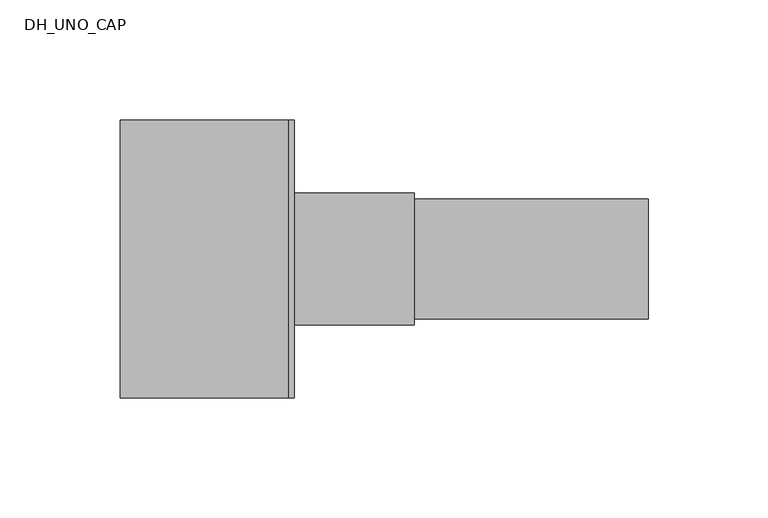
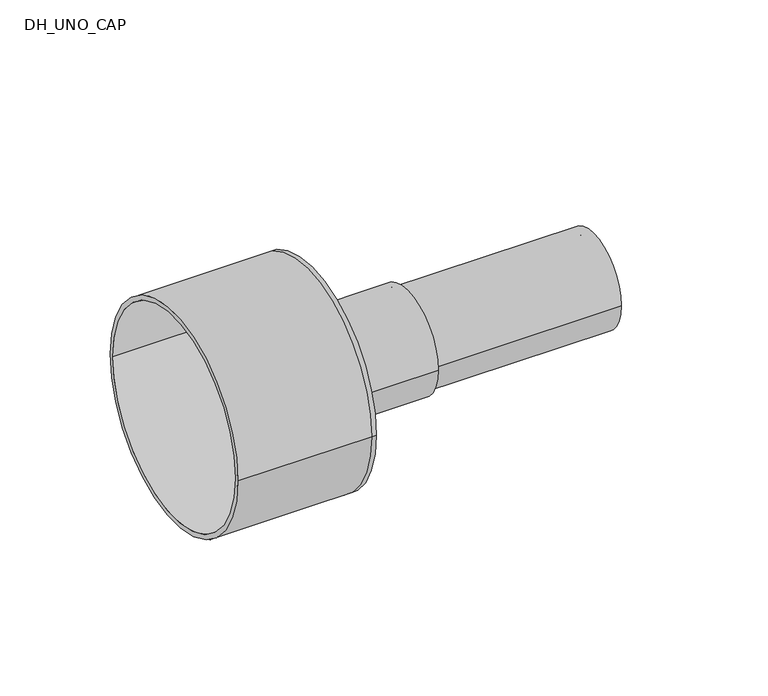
"""IFC4 building model written with IfcOpenShell, lengths in millimetres: pipe fitting geometry, DH_UNO_CAP : RAUTHERMEX UNO 11 Heating - Rubber Cap."""

import ifcopenshell
import ifcopenshell.guid

model = None  # the IFC model being written
_history = None  # IfcOwnerHistory: only IFC2X3 demands one
_inside = {}  # id of a spatial element -> (the spatial element, [elements in it])
_under = {}  # id of a project, library or spatial element -> (it, [spatial elements below it])
_declared = {}  # id of a project -> (the project, [libraries it declares])
_typed = {}  # id of a type object -> (the type object, [elements of that type])
_made_of = {}  # id of a material, layer set ... -> (it, [elements and type objects made of it])


def new_model(schema):
    """Start an empty IFC model of exactly this schema.

    Asked for "IFC4X3", IfcOpenShell would pick the latest addendum, in which some entities
    have other attributes; the version numbers below select the first issue.
    IFC2X3 requires an IfcOwnerHistory on every rooted entity: one is made here for all.
    """
    global model, _history
    if schema == "IFC4X3":
        model = ifcopenshell.file(schema_version=(4, 3, 0, 0))
    else:
        model = ifcopenshell.file(schema=schema)
    _inside.clear()
    _under.clear()
    _declared.clear()
    _typed.clear()
    _made_of.clear()
    _history = None
    if model.schema == "IFC2X3":
        org = make("IfcOrganization", Name="unknown")
        user = make(
            "IfcPersonAndOrganization",
            ThePerson=make("IfcPerson", FamilyName="unknown"),
            TheOrganization=org,
        )
        app = make(
            "IfcApplication",
            ApplicationDeveloper=org,
            Version="unknown",
            ApplicationFullName="unknown",
            ApplicationIdentifier="unknown",
        )
        _history = make(
            "IfcOwnerHistory",
            OwningUser=user,
            OwningApplication=app,
            ChangeAction="ADDED",
            CreationDate=0,
        )
    return model


def make(cls, **values):
    """One entity of the class cls with the attributes given. An attribute that is None is left unset."""
    return model.create_entity(
        cls, **{name: value for name, value in values.items() if value is not None}
    )


def rooted(cls, **values):
    """An entity with a GlobalId (a new one), such as an element, a storey or a relation."""
    return make(cls, GlobalId=ifcopenshell.guid.new(), OwnerHistory=_history, **values)


def si_unit(unit_type, name, prefix=None):
    """IfcSIUnit, for example si_unit("LENGTHUNIT", "METRE", prefix="MILLI")."""
    return make("IfcSIUnit", UnitType=unit_type, Prefix=prefix, Name=name)


def assignment(units):
    """IfcUnitAssignment: the units of a project."""
    return None if units is None else make("IfcUnitAssignment", Units=units)


def point(xyz):
    """IfcCartesianPoint."""
    return None if xyz is None else make("IfcCartesianPoint", Coordinates=xyz)


def direction(xyz):
    """IfcDirection."""
    return None if xyz is None else make("IfcDirection", DirectionRatios=xyz)


def frame(location, z_axis=None, x_axis=None):
    """IfcAxis2Placement3D, a coordinate frame: its origin and axes. An axis left out is left unset."""
    return make(
        "IfcAxis2Placement3D",
        Location=point(location),
        Axis=direction(z_axis),
        RefDirection=direction(x_axis),
    )


def frame_2d(location, x_axis=None):
    """IfcAxis2Placement2D, a coordinate frame in the plane: its origin and x axis."""
    return make(
        "IfcAxis2Placement2D", Location=point(location), RefDirection=direction(x_axis)
    )


def origin():
    """The frame at (0, 0, 0) with its axes left unset."""
    return frame((0.0, 0.0, 0.0))


def origin_2d():
    """The frame at (0, 0) in the plane with its x axis left unset."""
    return frame_2d((0.0, 0.0))


def place(relative_to, where):
    """IfcLocalPlacement: puts the frame where relative to a parent placement (None: the world)."""
    return make(
        "IfcLocalPlacement", PlacementRelTo=relative_to, RelativePlacement=where
    )


def context(
    kind, dimensions, precision=None, world=None, true_north=None, identifier=None
):
    """IfcGeometricRepresentationContext, for example the 3D "Model" context."""
    return make(
        "IfcGeometricRepresentationContext",
        ContextIdentifier=identifier,
        ContextType=kind,
        CoordinateSpaceDimension=dimensions,
        Precision=precision,
        WorldCoordinateSystem=world,
        TrueNorth=true_north,
    )


def project(units=None, contexts=None):
    """IfcProject with its units and contexts."""
    return rooted(
        "IfcProject",
        Name="project",
        RepresentationContexts=contexts,
        UnitsInContext=assignment(units),
    )


def spatial(cls, under=None, at=None, **own):
    """A site, building, storey or space (cls), placed at a placement, below another one or the project."""
    s = rooted(cls, ObjectPlacement=at, **own)
    if under is not None:
        _under.setdefault(under.id(), (under, []))[1].append(s)
    return s


def polyline(points):
    """IfcPolyline through the points."""
    return make("IfcPolyline", Points=[point(p) for p in points])


def circle_curve(where, radius):
    """IfcCircle in the frame where."""
    return make("IfcCircle", Position=where, Radius=radius)


def trimmed(basis, trim1, trim2, sense, master):
    """IfcTrimmedCurve: the piece of a basis curve between two trims."""
    return make(
        "IfcTrimmedCurve",
        BasisCurve=basis,
        Trim1=trim1,
        Trim2=trim2,
        SenseAgreement=sense,
        MasterRepresentation=master,
    )


def segment(curve, same_sense, transition):
    """IfcCompositeCurveSegment."""
    return make(
        "IfcCompositeCurveSegment",
        Transition=transition,
        SameSense=same_sense,
        ParentCurve=curve,
    )


def composite_curve(segments, self_intersect=None):
    """IfcCompositeCurve: segments joined end to end."""
    return make("IfcCompositeCurve", Segments=segments, SelfIntersect=self_intersect)


def outline(outer, holes=None, kind="AREA"):
    """IfcArbitraryClosedProfileDef: a profile drawn as a closed curve; with holes, ...WithVoids."""
    if holes is None:
        return make("IfcArbitraryClosedProfileDef", ProfileType=kind, OuterCurve=outer)
    return make(
        "IfcArbitraryProfileDefWithVoids",
        ProfileType=kind,
        OuterCurve=outer,
        InnerCurves=holes,
    )


def extrude(swept, where, along, depth):
    """IfcExtrudedAreaSolid: the profile swept, set in the frame where, extruded along a direction by depth."""
    return make(
        "IfcExtrudedAreaSolid",
        SweptArea=swept,
        Position=where,
        ExtrudedDirection=direction(along),
        Depth=depth,
    )


def shape(context_of_items, identifier, shape_type, items):
    """IfcShapeRepresentation: the items that make up one representation, for example the "Body"."""
    return make(
        "IfcShapeRepresentation",
        ContextOfItems=context_of_items,
        RepresentationIdentifier=identifier,
        RepresentationType=shape_type,
        Items=items,
    )


def source(mapping_origin, context_of_items, identifier, shape_type, items):
    """IfcRepresentationMap: a shape defined once, which mapped items show again and again."""
    return make(
        "IfcRepresentationMap",
        MappingOrigin=mapping_origin,
        MappedRepresentation=shape(context_of_items, identifier, shape_type, items),
    )


def transform(
    local_origin,
    x_axis=None,
    y_axis=None,
    z_axis=None,
    scale=None,
    scale2=None,
    scale3=None,
    uniform=True,
):
    """IfcCartesianTransformationOperator3D, or its non-uniform kind. x_axis, y_axis, z_axis: its Axis1, 2, 3."""
    if uniform:
        return make(
            "IfcCartesianTransformationOperator3D",
            Axis1=direction(x_axis),
            Axis2=direction(y_axis),
            LocalOrigin=point(local_origin),
            Scale=scale,
            Axis3=direction(z_axis),
        )
    return make(
        "IfcCartesianTransformationOperator3DnonUniform",
        Axis1=direction(x_axis),
        Axis2=direction(y_axis),
        LocalOrigin=point(local_origin),
        Scale=scale,
        Axis3=direction(z_axis),
        Scale2=scale2,
        Scale3=scale3,
    )


def mapped(mapping_source, mapping_target):
    """IfcMappedItem: shows the shape of a source again, moved by a transform."""
    return make(
        "IfcMappedItem", MappingSource=mapping_source, MappingTarget=mapping_target
    )


def made_of(thing, what):
    """Note that an element or type object is made of a material, layer set ...; save() writes the relation."""
    if what is not None:
        _made_of.setdefault(what.id(), (what, []))[1].append(thing)
    return thing


def element(
    cls,
    number,
    at=None,
    inside=None,
    cuts=None,
    type_object=None,
    material=None,
    context=None,
    identifier="Body",
    shape_type=None,
    held_by="IfcProductDefinitionShape",
    body=None,
    shapes=None,
    **own,
):
    """One element of the class cls, such as IfcWall. Its Tag is "e" and its number.

    at: its placement. inside: the storey or other place that contains it. cuts: it is an
    opening in that element (IfcRelVoidsElement). A single representation is given by context,
    identifier, shape_type and body (its items); several are given by shapes. held_by: the class
    of the entity that holds the representations. save() writes the other relations.
    """
    e = rooted(cls, Tag="e%d" % number, ObjectPlacement=at, **own)
    if body is not None:
        shapes = [shape(context, identifier, shape_type, body)]
    if shapes is not None:
        e.Representation = make(held_by, Representations=shapes)
    if inside is not None:
        _inside.setdefault(inside.id(), (inside, []))[1].append(e)
    if cuts is not None:
        rooted(
            "IfcRelVoidsElement", RelatingBuildingElement=cuts, RelatedOpeningElement=e
        )
    if type_object is not None:
        _typed.setdefault(type_object.id(), (type_object, []))[1].append(e)
    return made_of(e, material)


def aggregate(whole, parts):
    """IfcRelAggregates: a whole, such as a stair, and the parts it consists of."""
    return rooted("IfcRelAggregates", RelatingObject=whole, RelatedObjects=parts)


def save(model, path):
    """Write the relations noted so far, then the file.

    IfcRelAggregates (storeys below a building ...), IfcRelContainedInSpatialStructure (elements
    in a storey), IfcRelDefinesByType, IfcRelAssociatesMaterial and IfcRelDeclares: one each for
    every whole, place, type object, material and project.
    """
    for whole, parts in _under.values():
        aggregate(whole, parts)
    for where, things in _inside.values():
        rooted(
            "IfcRelContainedInSpatialStructure",
            RelatedElements=things,
            RelatingStructure=where,
        )
    for kind, things in _typed.values():
        rooted("IfcRelDefinesByType", RelatedObjects=things, RelatingType=kind)
    for what, things in _made_of.values():
        rooted("IfcRelAssociatesMaterial", RelatedObjects=things, RelatingMaterial=what)
    for by, libraries in _declared.values():
        rooted("IfcRelDeclares", RelatingContext=by, RelatedDefinitions=libraries)
    model.write(path)


def plane_surface(at):
    """IfcPlane: the flat surface through the origin of the frame at, square to its z axis."""
    return make("IfcPlane", Position=at)


def cylinder_surface(at, radius):
    """IfcCylindricalSurface: all points at the distance radius from the z axis of the frame at."""
    return make("IfcCylindricalSurface", Position=at, Radius=radius)


def revolved_surface(curve, axis_point, axis_direction):
    """IfcSurfaceOfRevolution: the curve turned about the line through axis_point along axis_direction."""
    return make(
        "IfcSurfaceOfRevolution",
        SweptCurve=make("IfcArbitraryOpenProfileDef", ProfileType="CURVE", Curve=curve),
        AxisPosition=make("IfcAxis1Placement", Location=point(axis_point), Axis=direction(axis_direction)),
    )


def advanced_brep(points, edges, surfaces, faces):
    """IfcAdvancedBrep: a solid bounded by faces that lie on surfaces and meet in shared edges.

    An edge is (start, end): straight between two places in points (the first is 0);
    or (start, end, curve); or (start, end, curve, False) where it runs against its curve.
    A face is (place in surfaces, loops), or (place, loops, False) where it looks against
    its surface's normal. A loop lists edges by number (the first is 1), with a minus sign
    where the edge is run from its end to its start. The first loop is the outer one.
    """
    corners = [point(p) for p in points]
    vertices = [make("IfcVertexPoint", VertexGeometry=c) for c in corners]
    made = []
    for start, end, *more in edges:
        made.append(
            make(
                "IfcEdgeCurve",
                EdgeStart=vertices[start],
                EdgeEnd=vertices[end],
                EdgeGeometry=more[0] if more else make("IfcPolyline", Points=[corners[start], corners[end]]),
                SameSense=more[1] if len(more) > 1 else True,
            )
        )
    hull = []
    for where, loops, *sense in faces:
        bounds = []
        for j, loop in enumerate(loops):
            ring = [make("IfcOrientedEdge", EdgeElement=made[abs(k) - 1], Orientation=k > 0) for k in loop]
            bounds.append(
                make(
                    "IfcFaceOuterBound" if j == 0 else "IfcFaceBound",
                    Bound=make("IfcEdgeLoop", EdgeList=ring),
                    Orientation=True,
                )
            )
        hull.append(make("IfcAdvancedFace", Bounds=bounds, FaceSurface=surfaces[where], SameSense=sense[0] if sense else True))
    return make("IfcAdvancedBrep", Outer=make("IfcClosedShell", CfsFaces=hull))


def dh_uno_cap_5ac99b47(model_context):
    return source(origin(), model_context, "Body", "SolidModel", [
        extrude(outline(composite_curve([segment(trimmed(circle_curve(origin_2d(), 25.0), [point((-25.0, 0.0))], [point((25.0, 0.0))], False, "CARTESIAN"), True, "CONTINUOUS"), segment(trimmed(circle_curve(origin_2d(), 25.0), [point((25.0, 0.0))], [point((-25.0, 0.0))], False, "CARTESIAN"), True, "CONTINUOUS")], self_intersect=False), holes=[composite_curve([segment(trimmed(circle_curve(origin_2d(), 20.4), [point((-20.4, 0.0))], [point((20.4, 0.0))], True, "CARTESIAN"), True, "CONTINUOUS"), segment(trimmed(circle_curve(origin_2d(), 20.4), [point((20.4, 0.0))], [point((-20.4, 0.0))], True, "CARTESIAN"), True, "CONTINUOUS")], self_intersect=False)]), frame((0.0, 0.0, 0.0), z_axis=(1.0, 0.0, 0.0), x_axis=(0.0, 1.0, 0.0)), (0.0, 0.0, 1.0), 150.0),
        advanced_brep(
        [(-70.0, -58.0, 0.0), (-70.0, 58.0, 0.0), (-70.0, -55.5, 0.0), (-70.0, 55.5, 0.0), (0.0, -55.5, 0.0), (0.0, 55.5, 0.0), (0.0, -58.0, 0.0), (0.0, 58.0, 0.0), (0.0, 25.0, 0.0), (0.0, -25.0, 0.0), (2.5, -58.0, 0.0), (2.5, 58.0, 0.0), (2.5, -25.0, 0.0), (2.5, 25.0, 0.0)],
        [
            (0, 1, circle_curve(frame((-70.0, 0.0, 0.0), z_axis=(-1.0, 0.0, 0.0), x_axis=(0.0, 1.0, 0.0)), 58.0)),
            (1, 0, circle_curve(frame((-70.0, 0.0, 0.0), z_axis=(-1.0, 0.0, 0.0), x_axis=(0.0, 1.0, 0.0)), 58.0)),
            (2, 3, circle_curve(frame((-70.0, 0.0, 0.0), z_axis=(1.0, 0.0, 0.0), x_axis=(0.0, 1.0, 0.0)), 55.5)),
            (3, 2, circle_curve(frame((-70.0, 0.0, 0.0), z_axis=(1.0, 0.0, 0.0), x_axis=(0.0, 1.0, 0.0)), 55.5)),
            (2, 4),
            (4, 5, circle_curve(frame((0.0, 0.0, 0.0), z_axis=(1.0, 0.0, 0.0), x_axis=(0.0, 1.0, 0.0)), 55.5)),
            (5, 3),
            (5, 4, circle_curve(frame((0.0, 0.0, 0.0), z_axis=(1.0, 0.0, 0.0), x_axis=(0.0, 1.0, 0.0)), 55.5)),
            (0, 6),
            (6, 7, circle_curve(frame((0.0, 0.0, 0.0), z_axis=(-1.0, 0.0, 0.0), x_axis=(0.0, 1.0, 0.0)), 58.0)),
            (7, 1),
            (7, 6, circle_curve(frame((0.0, 0.0, 0.0), z_axis=(-1.0, 0.0, 0.0), x_axis=(0.0, 1.0, 0.0)), 58.0)),
            (8, 9, circle_curve(frame((0.0, 0.0, 0.0), z_axis=(1.0, 0.0, 0.0), x_axis=(0.0, 1.0, 0.0)), 25.0)),
            (9, 8, circle_curve(frame((0.0, 0.0, 0.0), z_axis=(1.0, 0.0, 0.0), x_axis=(0.0, 1.0, 0.0)), 25.0)),
            (10, 11, circle_curve(frame((2.5, 0.0, 0.0), z_axis=(1.0, 0.0, 0.0), x_axis=(0.0, 1.0, 0.0)), 58.0)),
            (11, 10, circle_curve(frame((2.5, 0.0, 0.0), z_axis=(1.0, 0.0, 0.0), x_axis=(0.0, 1.0, 0.0)), 58.0)),
            (12, 13, circle_curve(frame((2.5, 0.0, 0.0), z_axis=(-1.0, 0.0, 0.0), x_axis=(0.0, 1.0, 0.0)), 25.0)),
            (13, 12, circle_curve(frame((2.5, 0.0, 0.0), z_axis=(-1.0, 0.0, 0.0), x_axis=(0.0, 1.0, 0.0)), 25.0)),
            (11, 7),
            (6, 10),
            (8, 13),
            (12, 9),
        ],
        [
            plane_surface(frame((-70.0, 0.0, 0.0), z_axis=(-1.0, 0.0, 0.0), x_axis=(0.0, 0.0, 1.0))),
            revolved_surface(polyline([(0.0, 55.5, 0.0), (-70.0, 55.5, 0.0)]), (-70.0, 0.0, 0.0), (1.0, 0.0, 0.0)),
            cylinder_surface(frame((-70.0, 0.0, 0.0), z_axis=(-1.0, 0.0, 0.0), x_axis=(0.0, 1.0, 0.0)), 58.0),
            plane_surface(frame((0.0, 0.0, 0.0), z_axis=(-1.0, 0.0, 0.0), x_axis=(0.0, 0.0, 1.0))),
            plane_surface(frame((2.5, 0.0, 0.0), z_axis=(1.0, 0.0, 0.0), x_axis=(0.0, 0.0, 1.0))),
            cylinder_surface(frame((0.0, 0.0, 0.0), z_axis=(-1.0, 0.0, 0.0), x_axis=(0.0, 1.0, 0.0)), 58.0),
            revolved_surface(polyline([(0.0, 25.0, 0.0), (2.5, 25.0, 0.0)]), (0.0, 0.0, 0.0), (-1.0, 0.0, 0.0)),
        ],
        [
            (0, [[1, 2], [3, 4]]),
            (1, [[-3, 5, 6, 7]]),
            (1, [[-4, -7, 8, -5]]),
            (2, [[-1, 9, 10, 11]]),
            (2, [[-2, -11, 12, -9]]),
            (3, [[-6, -8], [13, 14]]),
            (4, [[15, 16], [17, 18]]),
            (5, [[-16, 19, -10, 20]]),
            (5, [[-15, -20, -12, -19]]),
            (6, [[21, -17, 22, -13]]),
            (6, [[-21, -14, -22, -18]]),
        ],
    ),
        extrude(outline(composite_curve([segment(trimmed(circle_curve(origin_2d(), 27.5), [point((-27.5, 0.0))], [point((27.5, 0.0))], False, "CARTESIAN"), True, "CONTINUOUS"), segment(trimmed(circle_curve(origin_2d(), 27.5), [point((27.5, 0.0))], [point((-27.5, 0.0))], False, "CARTESIAN"), True, "CONTINUOUS")], self_intersect=False), holes=[composite_curve([segment(trimmed(circle_curve(origin_2d(), 25.0), [point((-25.0, 0.0))], [point((25.0, 0.0))], True, "CARTESIAN"), True, "CONTINUOUS"), segment(trimmed(circle_curve(origin_2d(), 25.0), [point((25.0, 0.0))], [point((-25.0, 0.0))], True, "CARTESIAN"), True, "CONTINUOUS")], self_intersect=False)]), frame((2.5, 0.0, 0.0), z_axis=(1.0, 0.0, 0.0), x_axis=(0.0, 1.0, 0.0)), (0.0, 0.0, 1.0), 50.0),
    ])


if __name__ == "__main__":
    model = new_model("IFC4")
    model_context = context("Model", 3, world=origin())
    ifc_project = project(units=[si_unit("LENGTHUNIT", "METRE", prefix="MILLI")], contexts=[model_context])
    site = spatial("IfcSite", under=ifc_project)
    building = spatial("IfcBuilding", under=site)
    placement = place(None, origin())
    dh_uno_cap_shape = dh_uno_cap_5ac99b47(model_context)
    element("IfcPipeFitting", 1, ObjectType="DH_UNO_CAP : RAUTHERMEX UNO 11 Heating - Rubber Cap", at=placement, inside=building, context=model_context, shape_type="MappedRepresentation", body=[
        mapped(dh_uno_cap_shape, transform((0.0, 0.0, 0.0), x_axis=(1.0, 0.0, 0.0), y_axis=(0.0, 1.0, 0.0), z_axis=(0.0, 0.0, 1.0))),
    ])
    save(model, "model.ifc")
